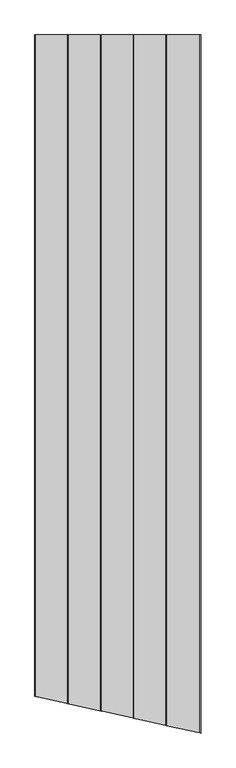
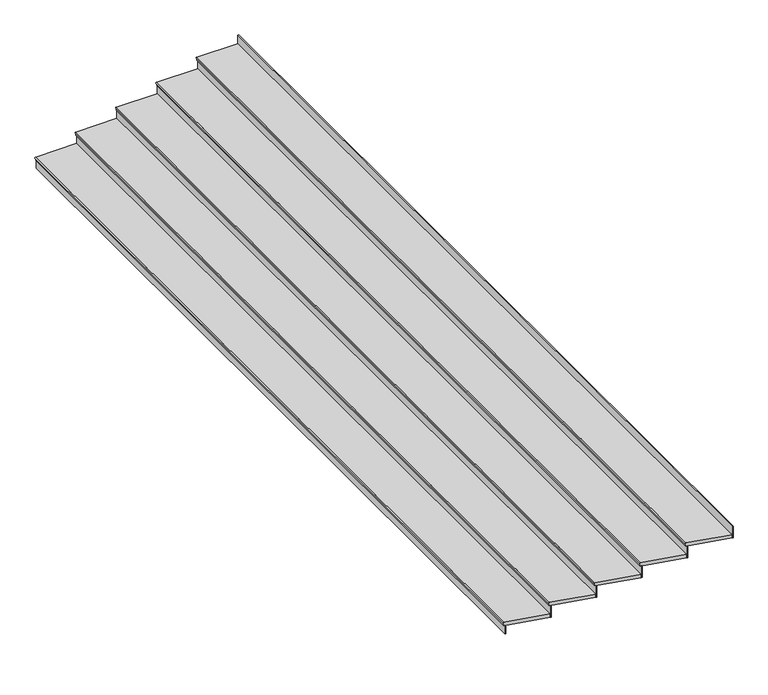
"""IFC4 building model written with IfcOpenShell, lengths in millimetres: stair flight geometry, Wood Steps with 50 mm Tread 20 mm Nosing 13 mm Riser."""

from ifc_helpers import new_model, si_unit, frame, origin, place, context, project, spatial, circle_curve, ellipse_curve, faceted_brep, source, transform, mapped, element, save
from ifc_brep_helpers import plane_surface, cylinder_surface, advanced_brep


def stair_flight_09174696(model_context):
    return source(origin(), model_context, "Body", "SolidModel", [
        advanced_brep(
        [(889154.9961928, 71298.0542047, 4159.2941176), (889154.9961928, 71298.0542047, 4179.2941176), (889154.9961928, 83137.2219152, 4179.2941176), (889154.9961928, 83137.2219152, 4159.2941176), (889753.4069648, 83137.2219152, 4179.2941176), (889753.4069648, 71165.3860667, 4179.2941176), (889154.9961928, 83137.2219152, 4129.2941176), (889753.4069648, 83137.2219152, 4129.2941176), (889753.4069648, 71165.3860667, 4129.2941176), (889154.9961928, 71298.0542047, 4129.2941176)],
        [
            (0, 1, ellipse_curve(frame((889154.9961928, 71298.0542047, 4169.2941176), z_axis=(0.21644531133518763, 0.9762947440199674, 0.0), x_axis=(0.9762947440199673, -0.21644531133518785, 0.0)), 10.2428084, 10.0)),
            (1, 2),
            (2, 3, circle_curve(frame((889154.9961928, 83137.2219152, 4169.2941176), z_axis=(0.0, -1.0, 0.0), x_axis=(1.0, 0.0, 0.0)), 10.0)),
            (3, 0),
            (4, 2),
            (1, 5),
            (5, 4),
            (6, 7),
            (7, 8),
            (8, 9),
            (9, 6),
            (4, 7),
            (6, 3),
            (9, 0),
            (8, 5),
        ],
        [
            cylinder_surface(frame((889154.9961928, 71298.0542047, 4169.2941176), z_axis=(0.0, -1.0, 0.0), x_axis=(1.0, 0.0, 0.0)), 10.0),
            plane_surface(frame((855999.6948183, 83137.2219152, 4179.2941176), z_axis=(0.0, 0.0, 1.0), x_axis=(-1.0, 0.0, 0.0))),
            plane_surface(frame((855999.6948183, 83137.2219152, 4129.2941176), z_axis=(0.0, 0.0, -1.0), x_axis=(1.0, 0.0, 0.0))),
            plane_surface(frame((889753.4069648, 83137.2219152, 4179.2941176), z_axis=(0.0, 1.0, 0.0), x_axis=(0.0, 0.0, -1.0))),
            plane_surface(frame((889154.9961928, 83137.2219152, 4179.2941176), z_axis=(-1.0, 0.0, 0.0), x_axis=(0.0, 0.0, -1.0))),
            plane_surface(frame((889154.9961928, 71298.0542047, 4179.2941176), z_axis=(-0.21644531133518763, -0.9762947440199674, 0.0), x_axis=(0.0, 0.0, -1.0))),
            plane_surface(frame((889753.4069648, 71165.3860667, 4179.2941176), z_axis=(1.0, 0.0, 0.0), x_axis=(0.0, 0.0, -1.0))),
        ],
        [
            (0, [[1, 2, 3, 4]]),
            (1, [[5, -2, 6, 7]]),
            (2, [[8, 9, 10, 11]]),
            (3, [[-5, 12, -8, 13, -3]]),
            (4, [[-11, 14, -4, -13]]),
            (5, [[-6, -1, -14, -10, 15]]),
            (6, [[-7, -15, -9, -12]]),
        ],
    ),
        faceted_brep([(889164.9961928, 71295.8371969, 4129.2941176), (889164.9961928, 71295.8371969, 4000.0), (889177.4961928, 71293.065937, 4000.0), (889177.4961928, 71293.065937, 4129.2941176), (889164.9961928, 83137.2219152, 4129.2941176), (889177.4961928, 83137.2219152, 4129.2941176), (889177.4961928, 83137.2219152, 4000.0), (889164.9961928, 83137.2219152, 4000.0)], [[[0, 1, 2, 3]], [[4, 5, 6, 7]], [[1, 0, 4, 7]], [[2, 1, 7, 6]], [[3, 2, 6, 5]], [[0, 3, 5, 4]]]),
        faceted_brep([(889753.4069648, 71165.3860667, 4308.5882353), (889753.4069648, 71165.3860667, 4129.2941176), (889765.9069648, 71162.6148069, 4129.2941176), (889765.9069648, 71162.6148069, 4308.5882353), (889753.4069648, 83137.2219152, 4308.5882353), (889765.9069648, 83137.2219152, 4308.5882353), (889765.9069648, 83137.2219152, 4129.2941176), (889753.4069648, 83137.2219152, 4129.2941176)], [[[0, 1, 2, 3]], [[4, 5, 6, 7]], [[1, 0, 4, 7]], [[2, 1, 7, 6]], [[3, 2, 6, 5]], [[0, 3, 5, 4]]]),
        advanced_brep(
        [(890341.8177367, 83137.2219152, 4358.5882353), (889743.4069648, 83137.2219152, 4358.5882353), (889743.4069648, 71167.6030745, 4358.5882353), (890341.8177367, 71034.9349365, 4358.5882353), (889743.4069648, 83137.2219152, 4308.5882353), (890341.8177367, 83137.2219152, 4308.5882353), (890341.8177367, 71034.9349365, 4308.5882353), (889743.4069648, 71167.6030745, 4308.5882353), (889743.4069648, 83137.2219152, 4338.5882353), (889743.4069648, 71167.6030745, 4338.5882353)],
        [
            (0, 1),
            (1, 2),
            (2, 3),
            (3, 0),
            (4, 5),
            (5, 6),
            (6, 7),
            (7, 4),
            (0, 5),
            (4, 8),
            (8, 1, circle_curve(frame((889743.4069648, 83137.2219152, 4348.5882353), z_axis=(0.0, 1.0, 0.0), x_axis=(1.0, 0.0, 0.0)), 10.0)),
            (7, 9),
            (9, 8),
            (2, 9, ellipse_curve(frame((889743.4069648, 71167.6030745, 4348.5882353), z_axis=(-0.21644531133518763, -0.9762947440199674, 0.0), x_axis=(0.9762947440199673, -0.21644531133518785, 0.0)), 10.2428084, 10.0)),
            (6, 3),
        ],
        [
            plane_surface(frame((855999.6948183, 83137.2219152, 4358.5882353), z_axis=(0.0, 0.0, 1.0), x_axis=(-1.0, 0.0, 0.0))),
            plane_surface(frame((855999.6948183, 83137.2219152, 4308.5882353), z_axis=(0.0, 0.0, -1.0), x_axis=(1.0, 0.0, 0.0))),
            plane_surface(frame((890341.8177367, 83137.2219152, 4358.5882353), z_axis=(0.0, 1.0, 0.0), x_axis=(0.0, 0.0, -1.0))),
            plane_surface(frame((889743.4069648, 83137.2219152, 4358.5882353), z_axis=(-1.0, 0.0, 0.0), x_axis=(0.0, 0.0, -1.0))),
            plane_surface(frame((889743.4069648, 71167.6030745, 4358.5882353), z_axis=(-0.21644531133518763, -0.9762947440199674, 0.0), x_axis=(0.0, 0.0, -1.0))),
            plane_surface(frame((890341.8177367, 71034.9349365, 4358.5882353), z_axis=(1.0, 0.0, 0.0), x_axis=(0.0, 0.0, -1.0))),
            cylinder_surface(frame((889743.4069648, 71167.6030745, 4348.5882353), z_axis=(0.0, -1.0, 0.0), x_axis=(1.0, 0.0, 0.0)), 10.0),
        ],
        [
            (0, [[1, 2, 3, 4]]),
            (1, [[5, 6, 7, 8]]),
            (2, [[-1, 9, -5, 10, 11]]),
            (3, [[-8, 12, 13, -10]]),
            (4, [[-3, 14, -12, -7, 15]]),
            (5, [[-4, -15, -6, -9]]),
            (6, [[-14, -2, -11, -13]]),
        ],
    ),
        faceted_brep([(890341.8177367, 71034.9349365, 4487.8823529), (890341.8177367, 71034.9349365, 4308.5882353), (890354.3177367, 71032.1636767, 4308.5882353), (890354.3177367, 71032.1636767, 4487.8823529), (890341.8177367, 83137.2219152, 4487.8823529), (890354.3177367, 83137.2219152, 4487.8823529), (890354.3177367, 83137.2219152, 4308.5882353), (890341.8177367, 83137.2219152, 4308.5882353)], [[[0, 1, 2, 3]], [[4, 5, 6, 7]], [[1, 0, 4, 7]], [[2, 1, 7, 6]], [[3, 2, 6, 5]], [[0, 3, 5, 4]]]),
        advanced_brep(
        [(890930.2285087, 83137.2219152, 4537.8823529), (890331.8177367, 83137.2219152, 4537.8823529), (890331.8177367, 71037.1519444, 4537.8823529), (890930.2285087, 70904.4838063, 4537.8823529), (890331.8177367, 83137.2219152, 4487.8823529), (890930.2285087, 83137.2219152, 4487.8823529), (890930.2285087, 70904.4838063, 4487.8823529), (890331.8177367, 71037.1519444, 4487.8823529), (890331.8177367, 83137.2219152, 4517.8823529), (890331.8177367, 71037.1519444, 4517.8823529)],
        [
            (0, 1),
            (1, 2),
            (2, 3),
            (3, 0),
            (4, 5),
            (5, 6),
            (6, 7),
            (7, 4),
            (0, 5),
            (4, 8),
            (8, 1, circle_curve(frame((890331.8177367, 83137.2219152, 4527.8823529), z_axis=(0.0, 1.0, 0.0), x_axis=(1.0, 0.0, 0.0)), 10.0)),
            (7, 9),
            (9, 8),
            (2, 9, ellipse_curve(frame((890331.8177367, 71037.1519444, 4527.8823529), z_axis=(-0.21644531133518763, -0.9762947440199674, 0.0), x_axis=(0.9762947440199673, -0.21644531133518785, 0.0)), 10.2428084, 10.0)),
            (6, 3),
        ],
        [
            plane_surface(frame((855999.6948183, 83137.2219152, 4537.8823529), z_axis=(0.0, 0.0, 1.0), x_axis=(-1.0, 0.0, 0.0))),
            plane_surface(frame((855999.6948183, 83137.2219152, 4487.8823529), z_axis=(0.0, 0.0, -1.0), x_axis=(1.0, 0.0, 0.0))),
            plane_surface(frame((890930.2285087, 83137.2219152, 4537.8823529), z_axis=(0.0, 1.0, 0.0), x_axis=(0.0, 0.0, -1.0))),
            plane_surface(frame((890331.8177367, 83137.2219152, 4537.8823529), z_axis=(-1.0, 0.0, 0.0), x_axis=(0.0, 0.0, -1.0))),
            plane_surface(frame((890331.8177367, 71037.1519444, 4537.8823529), z_axis=(-0.21644531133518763, -0.9762947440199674, 0.0), x_axis=(0.0, 0.0, -1.0))),
            plane_surface(frame((890930.2285087, 70904.4838063, 4537.8823529), z_axis=(1.0, 0.0, 0.0), x_axis=(0.0, 0.0, -1.0))),
            cylinder_surface(frame((890331.8177367, 71037.1519444, 4527.8823529), z_axis=(0.0, -1.0, 0.0), x_axis=(1.0, 0.0, 0.0)), 10.0),
        ],
        [
            (0, [[1, 2, 3, 4]]),
            (1, [[5, 6, 7, 8]]),
            (2, [[-1, 9, -5, 10, 11]]),
            (3, [[-8, 12, 13, -10]]),
            (4, [[-3, 14, -12, -7, 15]]),
            (5, [[-4, -15, -6, -9]]),
            (6, [[-14, -2, -11, -13]]),
        ],
    ),
        faceted_brep([(890930.2285087, 70904.4838063, 4667.1764706), (890930.2285087, 70904.4838063, 4487.8823529), (890942.7285087, 70901.7125465, 4487.8823529), (890942.7285087, 70901.7125465, 4667.1764706), (890930.2285087, 83137.2219152, 4667.1764706), (890942.7285087, 83137.2219152, 4667.1764706), (890942.7285087, 83137.2219152, 4487.8823529), (890930.2285087, 83137.2219152, 4487.8823529)], [[[0, 1, 2, 3]], [[4, 5, 6, 7]], [[1, 0, 4, 7]], [[2, 1, 7, 6]], [[3, 2, 6, 5]], [[0, 3, 5, 4]]]),
        advanced_brep(
        [(891518.6392807, 83137.2219152, 4717.1764706), (890920.2285087, 83137.2219152, 4717.1764706), (890920.2285087, 70906.7008142, 4717.1764706), (891518.6392807, 70774.0326762, 4717.1764706), (890920.2285087, 83137.2219152, 4667.1764706), (891518.6392807, 83137.2219152, 4667.1764706), (891518.6392807, 70774.0326762, 4667.1764706), (890920.2285087, 70906.7008142, 4667.1764706), (890920.2285087, 83137.2219152, 4697.1764706), (890920.2285087, 70906.7008142, 4697.1764706)],
        [
            (0, 1),
            (1, 2),
            (2, 3),
            (3, 0),
            (4, 5),
            (5, 6),
            (6, 7),
            (7, 4),
            (0, 5),
            (4, 8),
            (8, 1, circle_curve(frame((890920.2285087, 83137.2219152, 4707.1764706), z_axis=(0.0, 1.0, 0.0), x_axis=(1.0, 0.0, 0.0)), 10.0)),
            (7, 9),
            (9, 8),
            (2, 9, ellipse_curve(frame((890920.2285087, 70906.7008142, 4707.1764706), z_axis=(-0.21644531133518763, -0.9762947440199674, 0.0), x_axis=(0.9762947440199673, -0.21644531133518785, 0.0)), 10.2428084, 10.0)),
            (6, 3),
        ],
        [
            plane_surface(frame((855999.6948183, 83137.2219152, 4717.1764706), z_axis=(0.0, 0.0, 1.0), x_axis=(-1.0, 0.0, 0.0))),
            plane_surface(frame((855999.6948183, 83137.2219152, 4667.1764706), z_axis=(0.0, 0.0, -1.0), x_axis=(1.0, 0.0, 0.0))),
            plane_surface(frame((891518.6392807, 83137.2219152, 4717.1764706), z_axis=(0.0, 1.0, 0.0), x_axis=(0.0, 0.0, -1.0))),
            plane_surface(frame((890920.2285087, 83137.2219152, 4717.1764706), z_axis=(-1.0, 0.0, 0.0), x_axis=(0.0, 0.0, -1.0))),
            plane_surface(frame((890920.2285087, 70906.7008142, 4717.1764706), z_axis=(-0.21644531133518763, -0.9762947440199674, 0.0), x_axis=(0.0, 0.0, -1.0))),
            plane_surface(frame((891518.6392807, 70774.0326762, 4717.1764706), z_axis=(1.0, 0.0, 0.0), x_axis=(0.0, 0.0, -1.0))),
            cylinder_surface(frame((890920.2285087, 70906.7008142, 4707.1764706), z_axis=(0.0, -1.0, 0.0), x_axis=(1.0, 0.0, 0.0)), 10.0),
        ],
        [
            (0, [[1, 2, 3, 4]]),
            (1, [[5, 6, 7, 8]]),
            (2, [[-1, 9, -5, 10, 11]]),
            (3, [[-8, 12, 13, -10]]),
            (4, [[-3, 14, -12, -7, 15]]),
            (5, [[-4, -15, -6, -9]]),
            (6, [[-14, -2, -11, -13]]),
        ],
    ),
        faceted_brep([(891518.6392807, 70774.0326762, 4846.4705882), (891518.6392807, 70774.0326762, 4667.1764706), (891531.1392807, 70771.2614164, 4667.1764706), (891531.1392807, 70771.2614164, 4846.4705882), (891518.6392807, 83137.2219152, 4846.4705882), (891531.1392807, 83137.2219152, 4846.4705882), (891531.1392807, 83137.2219152, 4667.1764706), (891518.6392807, 83137.2219152, 4667.1764706)], [[[0, 1, 2, 3]], [[4, 5, 6, 7]], [[1, 0, 4, 7]], [[2, 1, 7, 6]], [[3, 2, 6, 5]], [[0, 3, 5, 4]]]),
        faceted_brep([(892107.0500527, 70643.581546, 5025.7647059), (892107.0500527, 70643.581546, 4846.4705882), (892119.5500527, 70640.8102862, 4846.4705882), (892119.5500527, 70640.8102862, 5025.7647059), (892107.0500527, 83137.2219152, 5025.7647059), (892119.5500527, 83137.2219152, 5025.7647059), (892119.5500527, 83137.2219152, 4846.4705882), (892107.0500527, 83137.2219152, 4846.4705882)], [[[0, 1, 2, 3]], [[4, 5, 6, 7]], [[1, 0, 4, 7]], [[2, 1, 7, 6]], [[3, 2, 6, 5]], [[0, 3, 5, 4]]]),
        advanced_brep(
        [(892107.0500527, 83137.2219152, 4896.4705882), (891508.6392807, 83137.2219152, 4896.4705882), (891508.6392807, 70776.249684, 4896.4705882), (892107.0500527, 70643.581546, 4896.4705882), (891508.6392807, 83137.2219152, 4846.4705882), (892107.0500527, 83137.2219152, 4846.4705882), (892107.0500527, 70643.581546, 4846.4705882), (891508.6392807, 70776.249684, 4846.4705882), (891508.6392807, 83137.2219152, 4876.4705882), (891508.6392807, 70776.249684, 4876.4705882)],
        [
            (0, 1),
            (1, 2),
            (2, 3),
            (3, 0),
            (4, 5),
            (5, 6),
            (6, 7),
            (7, 4),
            (0, 5),
            (4, 8),
            (8, 1, circle_curve(frame((891508.6392807, 83137.2219152, 4886.4705882), z_axis=(0.0, 1.0, 0.0), x_axis=(1.0, 0.0, 0.0)), 10.0)),
            (7, 9),
            (9, 8),
            (2, 9, ellipse_curve(frame((891508.6392807, 70776.249684, 4886.4705882), z_axis=(-0.21644531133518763, -0.9762947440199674, 0.0), x_axis=(0.9762947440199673, -0.21644531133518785, 0.0)), 10.2428084, 10.0)),
            (6, 3),
        ],
        [
            plane_surface(frame((855999.6948183, 83137.2219152, 4896.4705882), z_axis=(0.0, 0.0, 1.0), x_axis=(-1.0, 0.0, 0.0))),
            plane_surface(frame((855999.6948183, 83137.2219152, 4846.4705882), z_axis=(0.0, 0.0, -1.0), x_axis=(1.0, 0.0, 0.0))),
            plane_surface(frame((892107.0500527, 83137.2219152, 4896.4705882), z_axis=(0.0, 1.0, 0.0), x_axis=(0.0, 0.0, -1.0))),
            plane_surface(frame((891508.6392807, 83137.2219152, 4896.4705882), z_axis=(-1.0, 0.0, 0.0), x_axis=(0.0, 0.0, -1.0))),
            plane_surface(frame((891508.6392807, 70776.249684, 4896.4705882), z_axis=(-0.21644531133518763, -0.9762947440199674, 0.0), x_axis=(0.0, 0.0, -1.0))),
            plane_surface(frame((892107.0500527, 70643.581546, 4896.4705882), z_axis=(1.0, 0.0, 0.0), x_axis=(0.0, 0.0, -1.0))),
            cylinder_surface(frame((891508.6392807, 70776.249684, 4886.4705882), z_axis=(0.0, -1.0, 0.0), x_axis=(1.0, 0.0, 0.0)), 10.0),
        ],
        [
            (0, [[1, 2, 3, 4]]),
            (1, [[5, 6, 7, 8]]),
            (2, [[-1, 9, -5, 10, 11]]),
            (3, [[-8, 12, 13, -10]]),
            (4, [[-3, 14, -12, -7, 15]]),
            (5, [[-4, -15, -6, -9]]),
            (6, [[-14, -2, -11, -13]]),
        ],
    ),
    ])


if __name__ == "__main__":
    model = new_model("IFC4")
    model_context = context("Model", 3, world=origin())
    ifc_project = project(units=[si_unit("LENGTHUNIT", "METRE", prefix="MILLI")], contexts=[model_context])
    site = spatial("IfcSite", under=ifc_project)
    building = spatial("IfcBuilding", under=site)
    placement = place(None, origin())
    stair_flight_shape = stair_flight_09174696(model_context)
    element("IfcStairFlight", 1, ObjectType="Wood Steps with 50 mm Tread 20 mm Nosing 13 mm Riser", at=placement, inside=building, context=model_context, shape_type="MappedRepresentation", body=[
        mapped(stair_flight_shape, transform((0.0, 0.0, 0.0), x_axis=(1.0, 0.0, 0.0), y_axis=(0.0, 1.0, 0.0), z_axis=(0.0, 0.0, 1.0))),
    ])
    save(model, "model.ifc")
